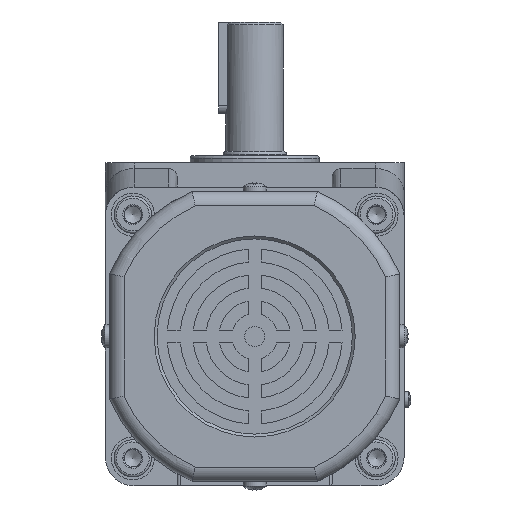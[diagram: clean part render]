
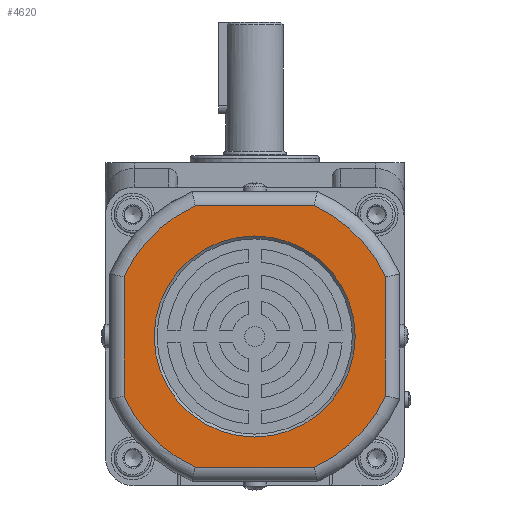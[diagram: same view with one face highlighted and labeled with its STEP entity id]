
A CAD part, front view. The second image highlights one B-rep face of the part: STEP entity #4620.
In plain terms, the highlighted planar face has unit normal (0, -1, 0).
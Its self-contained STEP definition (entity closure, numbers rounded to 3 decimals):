
#1640=PLANE('',#13582);
#2811=LINE('',#19689,#3647);
#2812=LINE('',#19705,#3648);
#2815=LINE('',#19757,#3651);
#2816=LINE('',#19773,#3652);
#3647=VECTOR('',#15725,1.);
#3648=VECTOR('',#15728,1.);
#3651=VECTOR('',#15745,1.);
#3652=VECTOR('',#15748,1.);
#4620=ADVANCED_FACE('',(#5197,#5198),#1640,.F.);
#5197=FACE_BOUND('',#5795,.T.);
#5198=FACE_BOUND('',#5796,.T.);
#5795=EDGE_LOOP('',(#7730,#7731,#7732,#7733,#7734,#7735,#7736,#7737));
#5796=EDGE_LOOP('',(#7738));
#7730=ORIENTED_EDGE('',*,*,#11239,.T.);
#7731=ORIENTED_EDGE('',*,*,#11234,.T.);
#7732=ORIENTED_EDGE('',*,*,#11241,.T.);
#7733=ORIENTED_EDGE('',*,*,#11247,.T.);
#7734=ORIENTED_EDGE('',*,*,#11253,.T.);
#7735=ORIENTED_EDGE('',*,*,#11255,.T.);
#7736=ORIENTED_EDGE('',*,*,#11251,.T.);
#7737=ORIENTED_EDGE('',*,*,#11245,.T.);
#7738=ORIENTED_EDGE('',*,*,#11232,.T.);
#9970=VERTEX_POINT('',#19641);
#9972=VERTEX_POINT('',#19656);
#9973=VERTEX_POINT('',#19658);
#9975=VERTEX_POINT('',#19686);
#9978=VERTEX_POINT('',#19704);
#9979=VERTEX_POINT('',#19720);
#9982=VERTEX_POINT('',#19738);
#9983=VERTEX_POINT('',#19754);
#9986=VERTEX_POINT('',#19772);
#11232=EDGE_CURVE('',#9970,#9970,#12399,.T.);
#11234=EDGE_CURVE('',#9973,#9972,#12400,.T.);
#11239=EDGE_CURVE('',#9975,#9973,#2811,.T.);
#11241=EDGE_CURVE('',#9972,#9978,#2812,.T.);
#11245=EDGE_CURVE('',#9979,#9975,#12403,.T.);
#11247=EDGE_CURVE('',#9978,#9982,#12404,.T.);
#11251=EDGE_CURVE('',#9983,#9979,#2815,.T.);
#11253=EDGE_CURVE('',#9982,#9986,#2816,.T.);
#11255=EDGE_CURVE('',#9986,#9983,#12406,.T.);
#12399=CIRCLE('',#13497,35.);
#12400=CIRCLE('',#13499,50.);
#12403=CIRCLE('',#13505,50.);
#12404=CIRCLE('',#13507,50.);
#12406=CIRCLE('',#13512,50.);
#13497=AXIS2_PLACEMENT_3D('',#19640,#15714,#15715);
#13499=AXIS2_PLACEMENT_3D('',#19657,#15718,#15719);
#13505=AXIS2_PLACEMENT_3D('',#19723,#15734,#15735);
#13507=AXIS2_PLACEMENT_3D('',#19739,#15738,#15739);
#13512=AXIS2_PLACEMENT_3D('',#19776,#15752,#15753);
#13582=AXIS2_PLACEMENT_3D('',#19944,#15926,#15927);
#15714=DIRECTION('',(0.,1.,0.));
#15715=DIRECTION('',(-1.,0.,0.));
#15718=DIRECTION('',(0.,-1.,0.));
#15719=DIRECTION('',(-1.,0.,0.));
#15725=DIRECTION('',(0.,0.,1.));
#15728=DIRECTION('',(-1.,0.,0.));
#15734=DIRECTION('',(0.,-1.,0.));
#15735=DIRECTION('',(-1.,0.,0.));
#15738=DIRECTION('',(0.,-1.,0.));
#15739=DIRECTION('',(-1.,0.,0.));
#15745=DIRECTION('',(1.,0.,0.));
#15748=DIRECTION('',(0.,0.,-1.));
#15752=DIRECTION('',(0.,-1.,0.));
#15753=DIRECTION('',(-1.,0.,0.));
#15926=DIRECTION('',(0.,1.,0.));
#15927=DIRECTION('',(-1.,0.,0.));
#19640=CARTESIAN_POINT('',(0.,-269.5,-60.5));
#19641=CARTESIAN_POINT('',(-35.,-269.5,-60.5));
#19656=CARTESIAN_POINT('',(20.73,-269.5,-15.));
#19657=CARTESIAN_POINT('',(0.,-269.5,-60.5));
#19658=CARTESIAN_POINT('',(45.5,-269.5,-39.77));
#19686=CARTESIAN_POINT('',(45.5,-269.5,-81.23));
#19689=CARTESIAN_POINT('',(45.5,-269.5,-38.711));
#19704=CARTESIAN_POINT('',(-20.73,-269.5,-15.));
#19705=CARTESIAN_POINT('',(-21.789,-269.5,-15.));
#19720=CARTESIAN_POINT('',(20.73,-269.5,-106.));
#19723=CARTESIAN_POINT('',(0.,-269.5,-60.5));
#19738=CARTESIAN_POINT('',(-45.5,-269.5,-39.77));
#19739=CARTESIAN_POINT('',(0.,-269.5,-60.5));
#19754=CARTESIAN_POINT('',(-20.73,-269.5,-106.));
#19757=CARTESIAN_POINT('',(21.789,-269.5,-106.));
#19772=CARTESIAN_POINT('',(-45.5,-269.5,-81.23));
#19773=CARTESIAN_POINT('',(-45.5,-269.5,-82.289));
#19776=CARTESIAN_POINT('',(0.,-269.5,-60.5));
#19944=CARTESIAN_POINT('',(0.,-269.5,-60.5));
